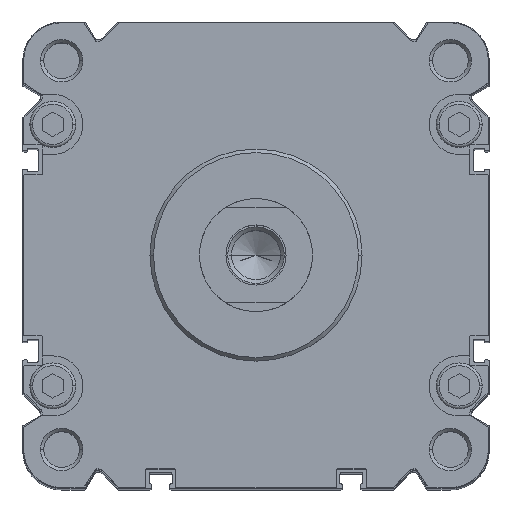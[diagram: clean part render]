
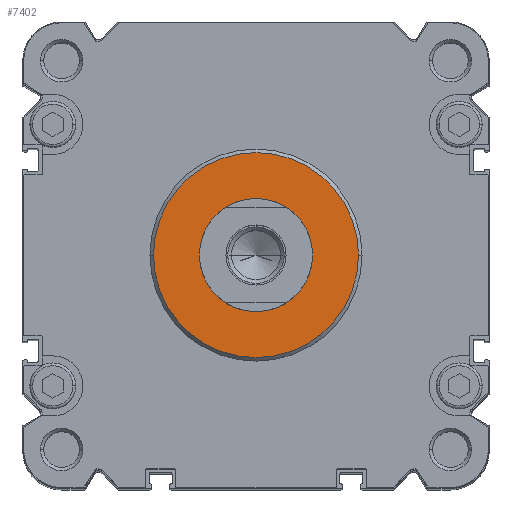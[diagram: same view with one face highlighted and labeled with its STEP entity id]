
A CAD part, top view. The second image highlights one B-rep face of the part: STEP entity #7402.
In plain terms, the highlighted planar face has unit normal (0, 0, 1).
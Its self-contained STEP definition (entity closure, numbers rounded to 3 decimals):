
#2728 = FACE_OUTER_BOUND ( 'NONE', #16410, .T. ) ;
#3284 = VERTEX_POINT ( 'NONE', #7288 ) ;
#3391 = ORIENTED_EDGE ( 'NONE', *, *, #7764, .F. ) ;
#3645 = ORIENTED_EDGE ( 'NONE', *, *, #6076, .T. ) ;
#4894 = DIRECTION ( 'NONE',  ( 1., 0., 0. ) ) ;
#5028 = DIRECTION ( 'NONE',  ( 0., 0., -1. ) ) ;
#5113 = AXIS2_PLACEMENT_3D ( 'NONE', #8091, #6604, #4894 ) ;
#5891 = CIRCLE ( 'NONE', #12365, 16. ) ;
#5962 = CARTESIAN_POINT ( 'NONE',  ( 0., -29., 4. ) ) ;
#6076 = EDGE_CURVE ( 'NONE', #3284, #9522, #12277, .T. ) ;
#6395 = ORIENTED_EDGE ( 'NONE', *, *, #19765, .T. ) ;
#6604 = DIRECTION ( 'NONE',  ( 0., 0., -1. ) ) ;
#7232 = PLANE ( 'NONE',  #14097 ) ;
#7288 = CARTESIAN_POINT ( 'NONE',  ( -16., 0., 4. ) ) ;
#7402 = ADVANCED_FACE ( 'NONE', ( #2728, #12469 ), #7232, .T. ) ;
#7683 = CARTESIAN_POINT ( 'NONE',  ( 16., 0., 4. ) ) ;
#7764 = EDGE_CURVE ( 'NONE', #16043, #20542, #19559, .T. ) ;
#8091 = CARTESIAN_POINT ( 'NONE',  ( 0., 0., 4. ) ) ;
#9353 = ORIENTED_EDGE ( 'NONE', *, *, #10986, .F. ) ;
#9522 = VERTEX_POINT ( 'NONE', #7683 ) ;
#9875 = AXIS2_PLACEMENT_3D ( 'NONE', #18135, #14813, #13316 ) ;
#10986 = EDGE_CURVE ( 'NONE', #20542, #16043, #19119, .T. ) ;
#12129 = CARTESIAN_POINT ( 'NONE',  ( 0., 0., 4. ) ) ;
#12159 = DIRECTION ( 'NONE',  ( 0., 0., 1. ) ) ;
#12277 = CIRCLE ( 'NONE', #9875, 16. ) ;
#12365 = AXIS2_PLACEMENT_3D ( 'NONE', #13567, #5028, #16337 ) ;
#12469 = FACE_BOUND ( 'NONE', #14076, .T. ) ;
#13316 = DIRECTION ( 'NONE',  ( 1., 0., 0. ) ) ;
#13567 = CARTESIAN_POINT ( 'NONE',  ( 0., 0., 4. ) ) ;
#13835 = DIRECTION ( 'NONE',  ( 1., 0., 0. ) ) ;
#14076 = EDGE_LOOP ( 'NONE', ( #6395, #3645 ) ) ;
#14097 = AXIS2_PLACEMENT_3D ( 'NONE', #5962, #12159, #18676 ) ;
#14245 = CARTESIAN_POINT ( 'NONE',  ( 29., 0., 4. ) ) ;
#14813 = DIRECTION ( 'NONE',  ( 0., 0., -1. ) ) ;
#15653 = DIRECTION ( 'NONE',  ( 0., 0., -1. ) ) ;
#15734 = CARTESIAN_POINT ( 'NONE',  ( -29., 0., 4. ) ) ;
#16043 = VERTEX_POINT ( 'NONE', #14245 ) ;
#16337 = DIRECTION ( 'NONE',  ( 1., 0., 0. ) ) ;
#16410 = EDGE_LOOP ( 'NONE', ( #3391, #9353 ) ) ;
#18135 = CARTESIAN_POINT ( 'NONE',  ( 0., 0., 4. ) ) ;
#18676 = DIRECTION ( 'NONE',  ( -1., 0., 0. ) ) ;
#18892 = AXIS2_PLACEMENT_3D ( 'NONE', #12129, #15653, #13835 ) ;
#19119 = CIRCLE ( 'NONE', #5113, 29. ) ;
#19559 = CIRCLE ( 'NONE', #18892, 29. ) ;
#19765 = EDGE_CURVE ( 'NONE', #9522, #3284, #5891, .T. ) ;
#20542 = VERTEX_POINT ( 'NONE', #15734 ) ;
